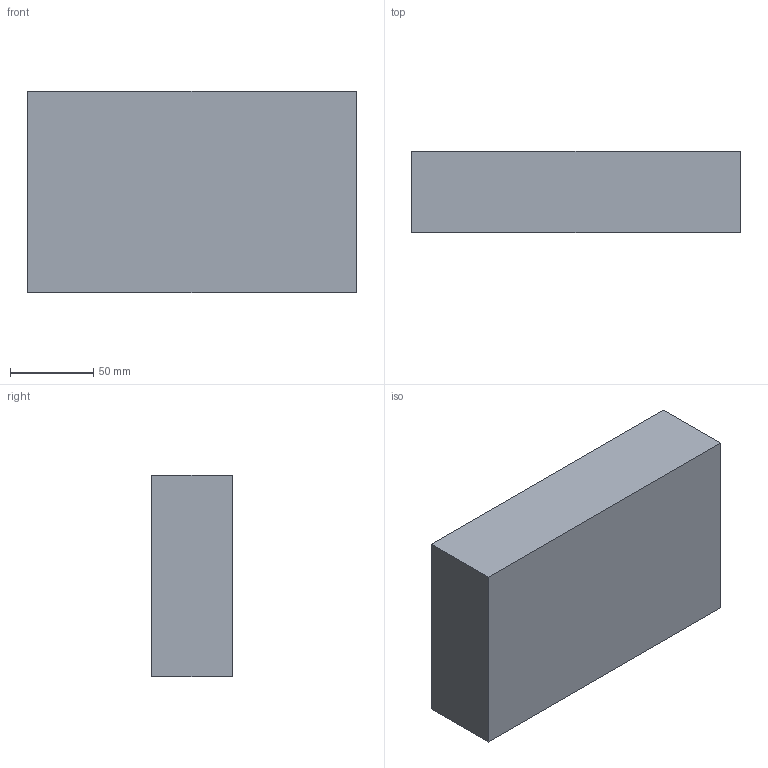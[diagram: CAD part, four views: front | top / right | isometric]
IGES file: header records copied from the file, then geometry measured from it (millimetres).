
Start section: SolidWorks IGES file using analytic representation for surfaces
Global section: file name: C:\Users\chad.chaiyont\My Project\MicroCase 3.0\MicroCase PID\M50-BOTTOM-REV-A-PID 12-13-2022.IGS; native system: SolidWorks 2021; preprocessor: SolidWorks 2021; author: Chad.Chaiyont; date: 221213.142701; units: millimetre
Bounding box: 197.19 x 48.5 x 120.99 mm (x, y, z)
Surface area: 100049.1 mm2 (no closed solid volume)
Topology: 0 solids, 0 shells, 199 faces, 1930 edges, 1930 vertices
Faces by surface type: bspline 123, revolution 76
